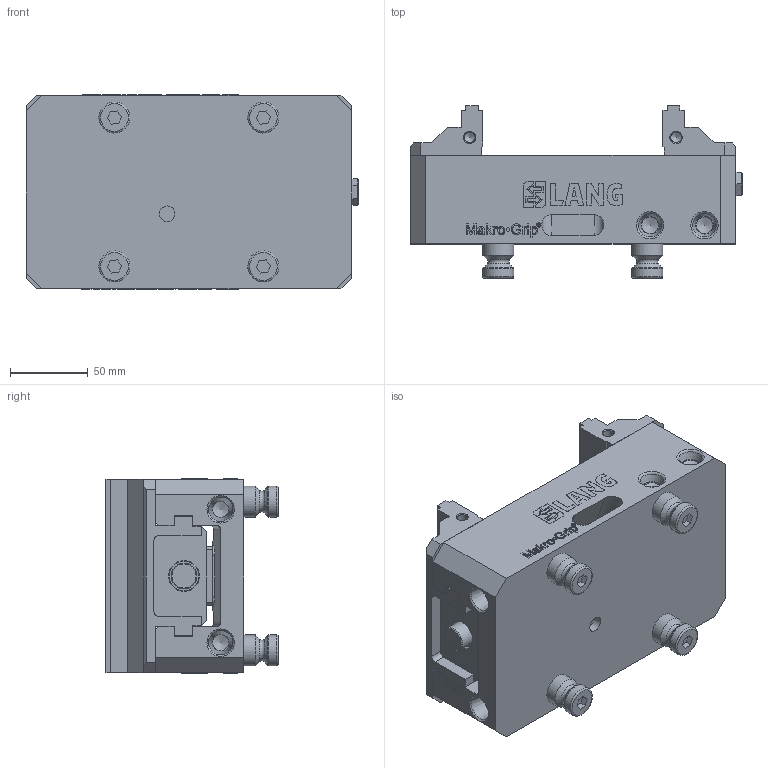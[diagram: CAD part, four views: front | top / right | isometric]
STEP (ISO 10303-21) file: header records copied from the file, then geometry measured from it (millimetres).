
FILE_DESCRIPTION (( 'STEP AP214' ), '1' );
FILE_NAME ('48205-125.STEP', '2020-02-07T13:23:53', ( '' ), ( '' ), 'SwSTEP 2.0', 'SolidWorks 2019', '' );
FILE_SCHEMA (( 'AUTOMOTIVE_DESIGN' ));
Length unit declared in the file: millimetre
Products named in the file (3): 48125-2520; Makro-Grip_48205-125; 48205-125
Assembly tree (3 placements, depth 2):
  48205-125
    Makro-Grip_48205-125
    48125-2520  x2
Bounding box: 214 x 111.01 x 125.24 mm (x, y, z)
Volume: 1303569.7 mm3; surface area: 215368.7 mm2
Topology: 50 solids, 50 shells, 952 faces, 2411 edges, 1582 vertices
Faces by surface type: plane 631, bspline 192, cylinder 58, cone 55, torus 16
Full cylindrical faces by diameter (mm): 6.8 x4, 8.5 x8, 10 x1, 16 x8, 16.5 x1, 20 x12
Entity records: 43922 total; most frequent: CARTESIAN_POINT 13961, ORIENTED_EDGE 4232, DIRECTION 3261, EDGE_CURVE 2116, VECTOR 1567, LINE 1567, VERTEX_POINT 1443, EDGE_LOOP 1043
